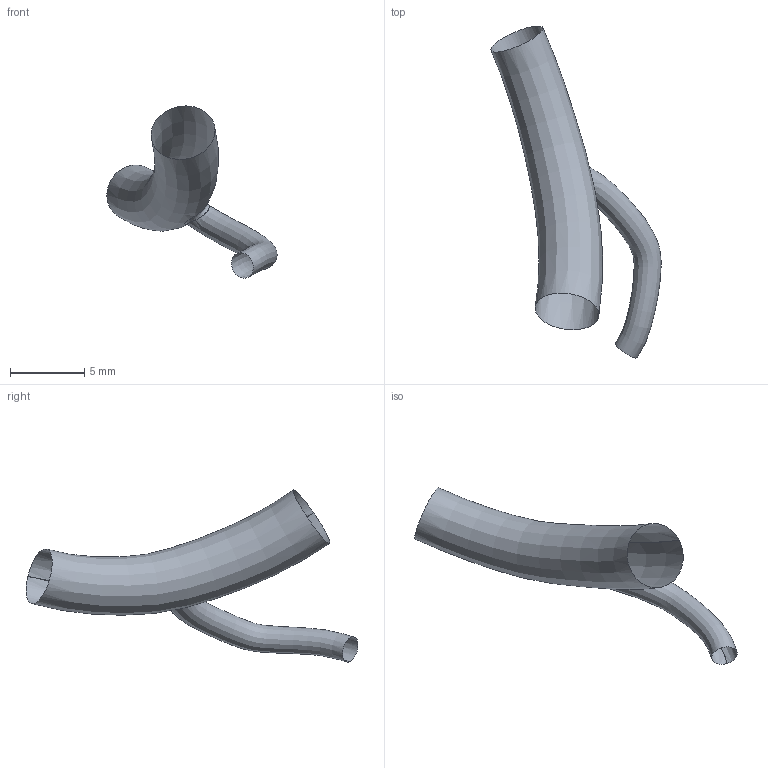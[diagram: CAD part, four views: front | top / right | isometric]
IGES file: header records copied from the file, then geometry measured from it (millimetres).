
Global section: file name: C:\Documents and Settings\Administrator\Desktop\FDA Bifurcation win\RawData_for_IGES\HRCA_Data\20000719.092552\IGES\20000719.092552.RM1.BIFUR.ES.igs; native system: Rhinoceros ( May 19 2006 ); preprocessor: Trout Lake IGES 012 May 19 2006; date: 100728.202212; units: centimetre
Bounding box: 11.5 x 22.43 x 11.63 mm (x, y, z)
Surface area: 337.4 mm2 (no closed solid volume)
Topology: 0 solids, 0 shells, 3 faces, 30 edges, 25 vertices
Faces by surface type: bspline 3
